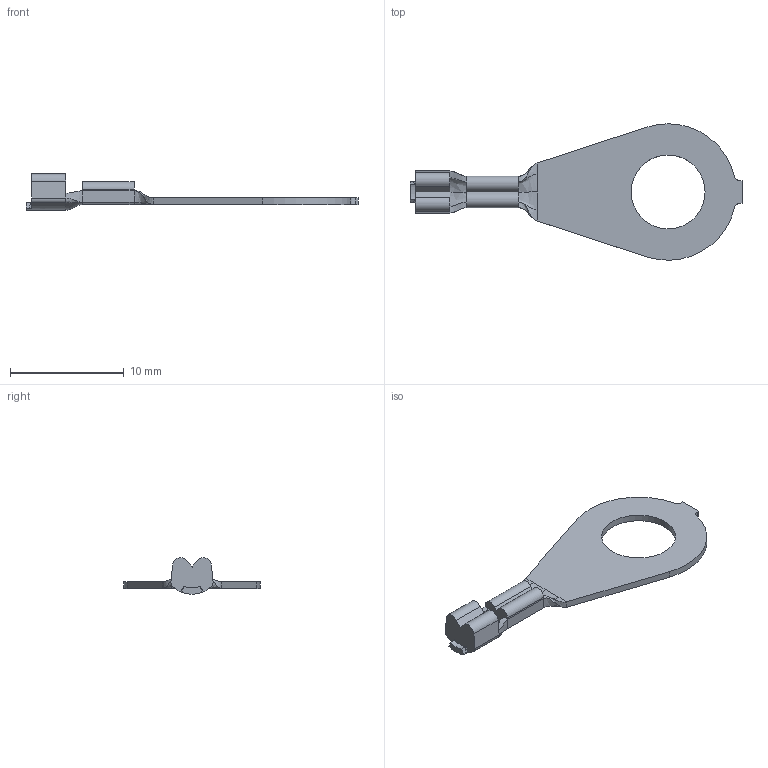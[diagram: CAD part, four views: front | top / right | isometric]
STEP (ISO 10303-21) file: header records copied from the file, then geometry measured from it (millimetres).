
FILE_DESCRIPTION(('CATIA V5 STEP Exchange','CAx-IF Rec.Pracs.--- Model Styling and Organization---1.2---2011-12-15'),'2;1');
FILE_NAME('Z:\spool1\temp\20059-CRIMP_RING-25207.stp','2016-12-08T11:04:18+00:00',('none'),('none'),'CATIA Version 5-6 Release 2014 SP5','CATIA V5 STEP AP214','none');
FILE_SCHEMA(('AUTOMOTIVE_DESIGN { 1 0 10303 214 1 1 1 1 }'));
Length unit declared in the file: millimetre
Products named in the file (1): 25165 CRIMPED
Bounding box: 29.2 x 12 x 3.2 mm (x, y, z)
Volume: 134 mm3; surface area: 425 mm2
Topology: 1 solids, 1 shells, 68 faces, 180 edges, 114 vertices
Faces by surface type: plane 26, bspline 22, cylinder 20
Entity records: 3933 total; most frequent: CARTESIAN_POINT 2439, ORIENTED_EDGE 360, DIRECTION 200, EDGE_CURVE 180, VERTEX_POINT 114, VECTOR 82, LINE 82, AXIS2_PLACEMENT_3D 76
